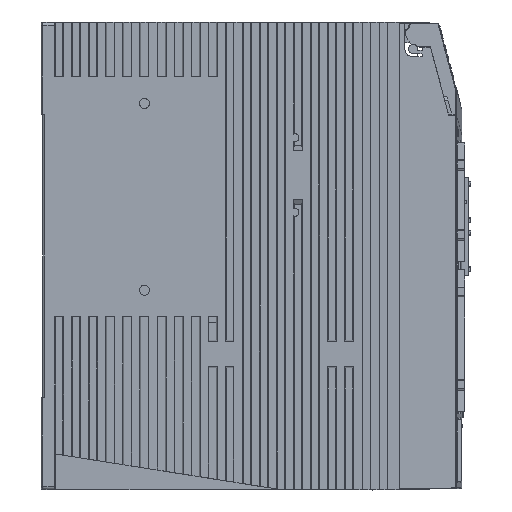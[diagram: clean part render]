
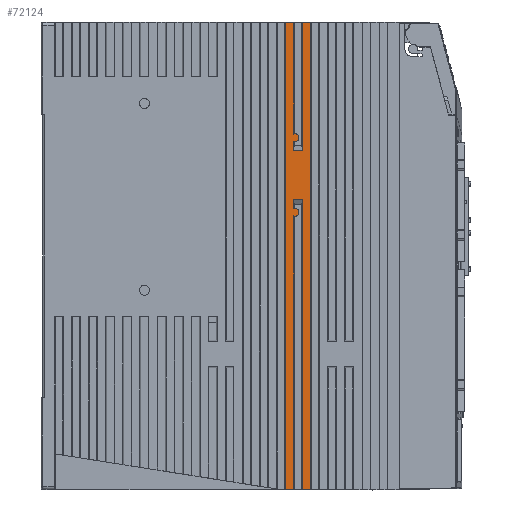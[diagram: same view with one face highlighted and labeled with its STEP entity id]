
A CAD part, left-side view. The second image highlights one B-rep face of the part: STEP entity #72124.
In plain terms, the highlighted planar face has unit normal (-1, 0, 0).
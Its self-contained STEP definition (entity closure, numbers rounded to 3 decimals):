
#3426 = VECTOR ( 'NONE', #44510, 1000. ) ;
#3446 = EDGE_CURVE ( 'NONE', #52533, #36013, #5608, .T. ) ;
#4855 = CARTESIAN_POINT ( 'NONE',  ( 122.5, -11.557, 38.004 ) ) ;
#4920 = CIRCLE ( 'NONE', #53102, 1.229 ) ;
#4991 = CARTESIAN_POINT ( 'NONE',  ( 122.5, -13.928, 18.272 ) ) ;
#5608 = LINE ( 'NONE', #102373, #89279 ) ;
#6134 = DIRECTION ( 'NONE',  ( 0., -1., 0. ) ) ;
#7112 = DIRECTION ( 'NONE',  ( 0., 1., 0. ) ) ;
#7432 = DIRECTION ( 'NONE',  ( 0., 0., 1. ) ) ;
#8306 = DIRECTION ( 'NONE',  ( -1., 0., 0. ) ) ;
#8691 = EDGE_CURVE ( 'NONE', #57505, #123800, #14637, .T. ) ;
#8945 = VERTEX_POINT ( 'NONE', #116318 ) ;
#8976 = CARTESIAN_POINT ( 'NONE',  ( 122.5, -7.057, 33.736 ) ) ;
#11470 = CARTESIAN_POINT ( 'NONE',  ( 122.5, -42.62, -75. ) ) ;
#14637 = LINE ( 'NONE', #39333, #84318 ) ;
#15383 = VERTEX_POINT ( 'NONE', #104463 ) ;
#15465 = VECTOR ( 'NONE', #7432, 1000. ) ;
#15501 = ORIENTED_EDGE ( 'NONE', *, *, #71161, .F. ) ;
#15664 = DIRECTION ( 'NONE',  ( 0., 0., 1. ) ) ;
#16385 = ORIENTED_EDGE ( 'NONE', *, *, #106093, .T. ) ;
#16608 = CARTESIAN_POINT ( 'NONE',  ( 122.5, -11.032, 75. ) ) ;
#16693 = PLANE ( 'NONE',  #64895 ) ;
#18085 = VECTOR ( 'NONE', #6134, 1000. ) ;
#19423 = AXIS2_PLACEMENT_3D ( 'NONE', #73685, #8306, #74305 ) ;
#21909 = EDGE_CURVE ( 'NONE', #90859, #54029, #57986, .T. ) ;
#25111 = VECTOR ( 'NONE', #78705, 1000. ) ;
#25618 = CARTESIAN_POINT ( 'NONE',  ( 122.5, -7.057, 18.272 ) ) ;
#26122 = DIRECTION ( 'NONE',  ( -1., 0., 0. ) ) ;
#26143 = ORIENTED_EDGE ( 'NONE', *, *, #108554, .T. ) ;
#26883 = EDGE_CURVE ( 'NONE', #90859, #82026, #45095, .T. ) ;
#28831 = ORIENTED_EDGE ( 'NONE', *, *, #59905, .T. ) ;
#30689 = EDGE_CURVE ( 'NONE', #82026, #32028, #91629, .T. ) ;
#30850 = CARTESIAN_POINT ( 'NONE',  ( 122.5, -42.62, 75. ) ) ;
#31650 = ORIENTED_EDGE ( 'NONE', *, *, #21909, .F. ) ;
#32028 = VERTEX_POINT ( 'NONE', #69193 ) ;
#32071 = EDGE_CURVE ( 'NONE', #15383, #36013, #87419, .T. ) ;
#35703 = CARTESIAN_POINT ( 'NONE',  ( 122.5, -11.032, 1.869 ) ) ;
#36013 = VERTEX_POINT ( 'NONE', #106349 ) ;
#36939 = CARTESIAN_POINT ( 'NONE',  ( 122.5, -42.62, -75. ) ) ;
#37056 = VECTOR ( 'NONE', #75544, 1000. ) ;
#37177 = CARTESIAN_POINT ( 'NONE',  ( 122.5, -16.512, -75. ) ) ;
#37369 = VECTOR ( 'NONE', #69817, 1000. ) ;
#37572 = LINE ( 'NONE', #35703, #15465 ) ;
#39333 = CARTESIAN_POINT ( 'NONE',  ( 122.5, -42.62, 75. ) ) ;
#40885 = DIRECTION ( 'NONE',  ( 0., 0., -1. ) ) ;
#43184 = DIRECTION ( 'NONE',  ( -1., 0., 0. ) ) ;
#43608 = LINE ( 'NONE', #81951, #51699 ) ;
#44510 = DIRECTION ( 'NONE',  ( 0., 1., 0. ) ) ;
#45095 = LINE ( 'NONE', #66462, #60260 ) ;
#51699 = VECTOR ( 'NONE', #101433, 1000. ) ;
#52169 = CARTESIAN_POINT ( 'NONE',  ( 122.5, -8.448, 75. ) ) ;
#52533 = VERTEX_POINT ( 'NONE', #37177 ) ;
#53102 = AXIS2_PLACEMENT_3D ( 'NONE', #4855, #43184, #71478 ) ;
#53195 = ORIENTED_EDGE ( 'NONE', *, *, #26883, .T. ) ;
#54029 = VERTEX_POINT ( 'NONE', #91059 ) ;
#55295 = EDGE_CURVE ( 'NONE', #73292, #86897, #4920, .T. ) ;
#57505 = VERTEX_POINT ( 'NONE', #95428 ) ;
#57986 = LINE ( 'NONE', #11470, #25111 ) ;
#59905 = EDGE_CURVE ( 'NONE', #8945, #80522, #72748, .T. ) ;
#60260 = VECTOR ( 'NONE', #123674, 1000. ) ;
#63916 = VECTOR ( 'NONE', #85690, 1000. ) ;
#64525 = ORIENTED_EDGE ( 'NONE', *, *, #8691, .F. ) ;
#64895 = AXIS2_PLACEMENT_3D ( 'NONE', #121015, #26122, #110954 ) ;
#65338 = ORIENTED_EDGE ( 'NONE', *, *, #121376, .T. ) ;
#66462 = CARTESIAN_POINT ( 'NONE',  ( 122.5, -11.032, 1.869 ) ) ;
#68702 = VECTOR ( 'NONE', #7112, 1000. ) ;
#69193 = CARTESIAN_POINT ( 'NONE',  ( 122.5, -11.032, 15.116 ) ) ;
#69691 = CARTESIAN_POINT ( 'NONE',  ( 122.5, -11.032, -75. ) ) ;
#69817 = DIRECTION ( 'NONE',  ( 0., -1., 0. ) ) ;
#70590 = ORIENTED_EDGE ( 'NONE', *, *, #72536, .T. ) ;
#70857 = CARTESIAN_POINT ( 'NONE',  ( 122.5, -11.032, 12.892 ) ) ;
#71161 = EDGE_CURVE ( 'NONE', #54029, #57505, #80457, .T. ) ;
#71242 = CARTESIAN_POINT ( 'NONE',  ( 122.5, -11.032, 33.736 ) ) ;
#71478 = DIRECTION ( 'NONE',  ( 0., 1., 0. ) ) ;
#72124 = ADVANCED_FACE ( 'NONE', ( #91490 ), #16693, .T. ) ;
#72408 = VERTEX_POINT ( 'NONE', #71242 ) ;
#72536 = EDGE_CURVE ( 'NONE', #102277, #72408, #112690, .T. ) ;
#72748 = LINE ( 'NONE', #25618, #18085 ) ;
#73166 = LINE ( 'NONE', #76860, #63916 ) ;
#73292 = VERTEX_POINT ( 'NONE', #119796 ) ;
#73685 = CARTESIAN_POINT ( 'NONE',  ( 122.5, -11.557, 14.004 ) ) ;
#74305 = DIRECTION ( 'NONE',  ( 0., 1., 0. ) ) ;
#74636 = ORIENTED_EDGE ( 'NONE', *, *, #32071, .F. ) ;
#75544 = DIRECTION ( 'NONE',  ( 0., 0., -1. ) ) ;
#76860 = CARTESIAN_POINT ( 'NONE',  ( 122.5, -11.032, 1.869 ) ) ;
#78705 = DIRECTION ( 'NONE',  ( 0., 1., 0. ) ) ;
#79863 = LINE ( 'NONE', #108763, #93006 ) ;
#80457 = LINE ( 'NONE', #52169, #102821 ) ;
#80522 = VERTEX_POINT ( 'NONE', #4991 ) ;
#81951 = CARTESIAN_POINT ( 'NONE',  ( 122.5, -11.032, 1.869 ) ) ;
#82026 = VERTEX_POINT ( 'NONE', #70857 ) ;
#83648 = ORIENTED_EDGE ( 'NONE', *, *, #105499, .T. ) ;
#84318 = VECTOR ( 'NONE', #100740, 1000. ) ;
#85690 = DIRECTION ( 'NONE',  ( 0., 0., 1. ) ) ;
#86897 = VERTEX_POINT ( 'NONE', #90047 ) ;
#87084 = ORIENTED_EDGE ( 'NONE', *, *, #30689, .T. ) ;
#87419 = LINE ( 'NONE', #30850, #37369 ) ;
#88044 = CARTESIAN_POINT ( 'NONE',  ( 122.5, -13.928, 33.736 ) ) ;
#89279 = VECTOR ( 'NONE', #15664, 1000. ) ;
#90047 = CARTESIAN_POINT ( 'NONE',  ( 122.5, -11.032, 39.116 ) ) ;
#90859 = VERTEX_POINT ( 'NONE', #69691 ) ;
#91059 = CARTESIAN_POINT ( 'NONE',  ( 122.5, -8.448, -75. ) ) ;
#91490 = FACE_OUTER_BOUND ( 'NONE', #103007, .T. ) ;
#91629 = CIRCLE ( 'NONE', #19423, 1.229 ) ;
#93006 = VECTOR ( 'NONE', #40885, 1000. ) ;
#95428 = CARTESIAN_POINT ( 'NONE',  ( 122.5, -8.448, 75. ) ) ;
#100740 = DIRECTION ( 'NONE',  ( 0., -1., 0. ) ) ;
#101433 = DIRECTION ( 'NONE',  ( 0., 0., 1. ) ) ;
#102277 = VERTEX_POINT ( 'NONE', #88044 ) ;
#102373 = CARTESIAN_POINT ( 'NONE',  ( 122.5, -16.512, 1.869 ) ) ;
#102821 = VECTOR ( 'NONE', #119414, 1000. ) ;
#103007 = EDGE_LOOP ( 'NONE', ( #120621, #16385, #64525, #15501, #31650, #53195, #87084, #123349, #28831, #26143, #107289, #116233, #74636, #65338, #70590, #83648 ) ) ;
#103820 = LINE ( 'NONE', #112625, #37056 ) ;
#104463 = CARTESIAN_POINT ( 'NONE',  ( 122.5, -13.928, 75. ) ) ;
#105404 = EDGE_CURVE ( 'NONE', #52533, #121536, #113625, .T. ) ;
#105499 = EDGE_CURVE ( 'NONE', #72408, #73292, #37572, .T. ) ;
#106093 = EDGE_CURVE ( 'NONE', #86897, #123800, #43608, .T. ) ;
#106349 = CARTESIAN_POINT ( 'NONE',  ( 122.5, -16.512, 75. ) ) ;
#107289 = ORIENTED_EDGE ( 'NONE', *, *, #105404, .F. ) ;
#107294 = EDGE_CURVE ( 'NONE', #32028, #8945, #73166, .T. ) ;
#108554 = EDGE_CURVE ( 'NONE', #80522, #121536, #103820, .T. ) ;
#108763 = CARTESIAN_POINT ( 'NONE',  ( 122.5, -13.928, 1.869 ) ) ;
#109382 = CARTESIAN_POINT ( 'NONE',  ( 122.5, -13.928, -75. ) ) ;
#110954 = DIRECTION ( 'NONE',  ( 0., 0., 1. ) ) ;
#112625 = CARTESIAN_POINT ( 'NONE',  ( 122.5, -13.928, 1.869 ) ) ;
#112690 = LINE ( 'NONE', #8976, #68702 ) ;
#113625 = LINE ( 'NONE', #36939, #3426 ) ;
#116233 = ORIENTED_EDGE ( 'NONE', *, *, #3446, .T. ) ;
#116318 = CARTESIAN_POINT ( 'NONE',  ( 122.5, -11.032, 18.272 ) ) ;
#119414 = DIRECTION ( 'NONE',  ( 0., 0., 1. ) ) ;
#119796 = CARTESIAN_POINT ( 'NONE',  ( 122.5, -11.032, 36.892 ) ) ;
#120621 = ORIENTED_EDGE ( 'NONE', *, *, #55295, .T. ) ;
#121015 = CARTESIAN_POINT ( 'NONE',  ( 122.5, -7.057, 1.869 ) ) ;
#121376 = EDGE_CURVE ( 'NONE', #15383, #102277, #79863, .T. ) ;
#121536 = VERTEX_POINT ( 'NONE', #109382 ) ;
#123349 = ORIENTED_EDGE ( 'NONE', *, *, #107294, .T. ) ;
#123674 = DIRECTION ( 'NONE',  ( 0., 0., 1. ) ) ;
#123800 = VERTEX_POINT ( 'NONE', #16608 ) ;
